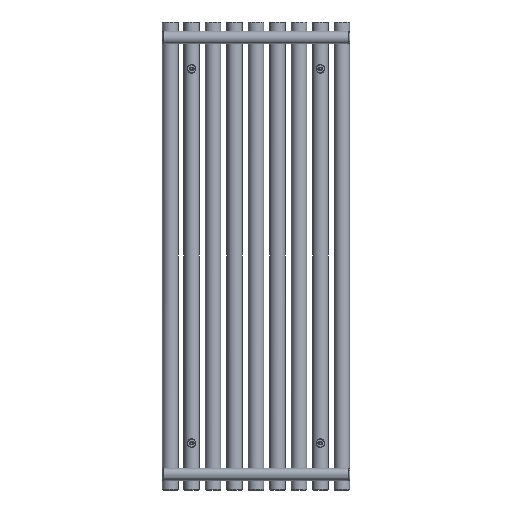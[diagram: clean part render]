
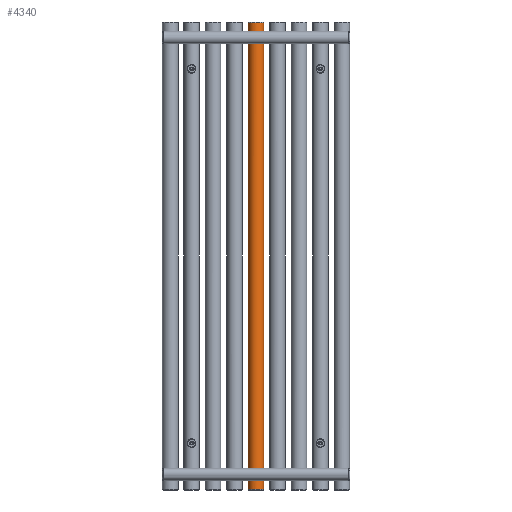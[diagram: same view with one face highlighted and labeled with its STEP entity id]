
A CAD part, front view. The second image highlights one B-rep face of the part: STEP entity #4340.
In plain terms, the highlighted cylindrical face has radius 20 mm (diameter 40 mm), a full revolution.
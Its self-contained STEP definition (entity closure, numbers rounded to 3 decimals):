
#270=FACE_BOUND('',#928,.T.);
#271=FACE_BOUND('',#929,.T.);
#272=FACE_BOUND('',#930,.T.);
#334=LINE('',#8154,#449);
#449=VECTOR('',#5409,20.);
#564=CYLINDRICAL_SURFACE('',#4674,20.);
#632=FACE_OUTER_BOUND('',#927,.T.);
#927=EDGE_LOOP('',(#3010,#3011,#3012,#3013,#3014));
#928=EDGE_LOOP('',(#3015));
#929=EDGE_LOOP('',(#3016));
#930=EDGE_LOOP('',(#3017));
#1271=B_SPLINE_CURVE_WITH_KNOTS('',3,(#8128,#8129,#8130,#8131,#8132,#8133,
#8134,#8135,#8136,#8137,#8138,#8139,#8140,#8141,#8142,#8143,#8144,#8145,
#8146,#8147,#8148),.UNSPECIFIED.,.T.,.F.,(4,1,1,1,1,1,1,1,1,1,1,1,1,1,1,
1,1,1,4),(-5.132,-4.765,-4.399,-4.154,
-3.91,-3.788,-3.666,-3.421,
-3.177,-2.933,-2.688,-2.199,
-1.955,-1.711,-1.466,-1.1,
-0.733,-0.367,0.),.UNSPECIFIED.);
#1272=B_SPLINE_CURVE_WITH_KNOTS('',3,(#8158,#8159,#8160,#8161,#8162,#8163,
#8164,#8165,#8166,#8167,#8168,#8169,#8170,#8171,#8172,#8173,#8174,#8175,
#8176,#8177),.UNSPECIFIED.,.T.,.F.,(4,1,1,1,1,1,1,1,1,1,1,1,1,1,1,1,1,4),
(-5.132,-4.765,-4.399,-4.154,
-3.91,-3.666,-3.421,-3.177,-2.933,
-2.444,-2.199,-1.955,-1.711,-1.466,
-1.1,-0.733,-0.367,0.),
 .UNSPECIFIED.);
#1273=B_SPLINE_CURVE_WITH_KNOTS('',3,(#8179,#8180,#8181,#8182,#8183,#8184,
#8185,#8186,#8187,#8188,#8189,#8190,#8191,#8192,#8193,#8194,#8195,#8196,
#8197,#8198),.UNSPECIFIED.,.T.,.F.,(4,1,1,1,1,1,1,1,1,1,1,1,1,1,1,1,1,4),
(-6.15,-5.711,-5.272,-4.686,
-4.393,-4.247,-4.1,-3.807,
-3.514,-3.222,-2.929,-2.636,
-2.05,-1.757,-1.318,-0.879,
-0.439,0.),.UNSPECIFIED.);
#1367=CIRCLE('',#4675,20.);
#1368=CIRCLE('',#4676,20.);
#1369=CIRCLE('',#4677,20.);
#1824=VERTEX_POINT('',#8126);
#1825=VERTEX_POINT('',#8150);
#1826=VERTEX_POINT('',#8151);
#1827=VERTEX_POINT('',#8153);
#1828=VERTEX_POINT('',#8157);
#1829=VERTEX_POINT('',#8178);
#2310=EDGE_CURVE('',#1824,#1824,#1271,.T.);
#2311=EDGE_CURVE('',#1825,#1826,#1367,.T.);
#2312=EDGE_CURVE('',#1825,#1827,#334,.T.);
#2313=EDGE_CURVE('',#1827,#1827,#1368,.T.);
#2314=EDGE_CURVE('',#1826,#1825,#1369,.T.);
#2315=EDGE_CURVE('',#1828,#1828,#1272,.T.);
#2316=EDGE_CURVE('',#1829,#1829,#1273,.T.);
#3010=ORIENTED_EDGE('',*,*,#2311,.F.);
#3011=ORIENTED_EDGE('',*,*,#2312,.T.);
#3012=ORIENTED_EDGE('',*,*,#2313,.F.);
#3013=ORIENTED_EDGE('',*,*,#2312,.F.);
#3014=ORIENTED_EDGE('',*,*,#2314,.F.);
#3015=ORIENTED_EDGE('',*,*,#2315,.F.);
#3016=ORIENTED_EDGE('',*,*,#2316,.F.);
#3017=ORIENTED_EDGE('',*,*,#2310,.F.);
#4340=ADVANCED_FACE('',(#632,#270,#271,#272),#564,.T.);
#4674=AXIS2_PLACEMENT_3D('',#8149,#5405,#5406);
#4675=AXIS2_PLACEMENT_3D('',#8152,#5407,#5408);
#4676=AXIS2_PLACEMENT_3D('',#8155,#5410,#5411);
#4677=AXIS2_PLACEMENT_3D('',#8156,#5412,#5413);
#5405=DIRECTION('center_axis',(0.,0.,1.));
#5406=DIRECTION('ref_axis',(-1.,0.,0.));
#5407=DIRECTION('center_axis',(0.,0.,1.));
#5408=DIRECTION('ref_axis',(-1.,0.,0.));
#5409=DIRECTION('',(0.,0.,-1.));
#5410=DIRECTION('center_axis',(0.,0.,-1.));
#5411=DIRECTION('ref_axis',(-1.,0.,0.));
#5412=DIRECTION('center_axis',(0.,0.,1.));
#5413=DIRECTION('ref_axis',(-1.,0.,0.));
#8126=CARTESIAN_POINT('',(-220.,-20.,50.1));
#8128=CARTESIAN_POINT('Ctrl Pts',(-220.,-20.,50.1));
#8129=CARTESIAN_POINT('Ctrl Pts',(-221.611,-20.,50.1));
#8130=CARTESIAN_POINT('Ctrl Pts',(-224.838,-19.598,49.587));
#8131=CARTESIAN_POINT('Ctrl Pts',(-228.411,-18.224,47.307));
#8132=CARTESIAN_POINT('Ctrl Pts',(-230.379,-17.114,44.115));
#8133=CARTESIAN_POINT('Ctrl Pts',(-230.993,-16.707,41.396));
#8134=CARTESIAN_POINT('Ctrl Pts',(-230.992,-16.708,39.163));
#8135=CARTESIAN_POINT('Ctrl Pts',(-230.666,-16.92,36.968));
#8136=CARTESIAN_POINT('Ctrl Pts',(-229.649,-17.552,34.429));
#8137=CARTESIAN_POINT('Ctrl Pts',(-227.534,-18.592,32.083));
#8138=CARTESIAN_POINT('Ctrl Pts',(-224.761,-19.504,30.58));
#8139=CARTESIAN_POINT('Ctrl Pts',(-220.581,-20.198,29.637));
#8140=CARTESIAN_POINT('Ctrl Pts',(-216.165,-19.824,30.09));
#8141=CARTESIAN_POINT('Ctrl Pts',(-212.466,-18.588,32.082));
#8142=CARTESIAN_POINT('Ctrl Pts',(-210.351,-17.556,34.43));
#8143=CARTESIAN_POINT('Ctrl Pts',(-208.927,-16.66,37.98));
#8144=CARTESIAN_POINT('Ctrl Pts',(-208.922,-16.66,42.599));
#8145=CARTESIAN_POINT('Ctrl Pts',(-211.137,-18.052,47.027));
#8146=CARTESIAN_POINT('Ctrl Pts',(-215.165,-19.6,49.585));
#8147=CARTESIAN_POINT('Ctrl Pts',(-218.389,-20.,50.1));
#8148=CARTESIAN_POINT('Ctrl Pts',(-220.,-20.,50.1));
#8149=CARTESIAN_POINT('Origin',(-220.,0.,0.));
#8150=CARTESIAN_POINT('',(-200.,0.,1198.));
#8151=CARTESIAN_POINT('',(-240.,0.,1198.));
#8152=CARTESIAN_POINT('Origin',(-220.,0.,1198.));
#8153=CARTESIAN_POINT('',(-200.,0.,2.));
#8154=CARTESIAN_POINT('',(-200.,0.,0.));
#8155=CARTESIAN_POINT('Origin',(-220.,0.,2.));
#8156=CARTESIAN_POINT('Origin',(-220.,0.,1198.));
#8157=CARTESIAN_POINT('',(-220.,-20.,1170.1));
#8158=CARTESIAN_POINT('Ctrl Pts',(-220.,-20.,1170.1));
#8159=CARTESIAN_POINT('Ctrl Pts',(-221.611,-20.,1170.1));
#8160=CARTESIAN_POINT('Ctrl Pts',(-224.838,-19.598,1169.588));
#8161=CARTESIAN_POINT('Ctrl Pts',(-228.412,-18.225,1167.308));
#8162=CARTESIAN_POINT('Ctrl Pts',(-230.38,-17.114,1164.116));
#8163=CARTESIAN_POINT('Ctrl Pts',(-231.115,-16.626,1160.853));
#8164=CARTESIAN_POINT('Ctrl Pts',(-230.87,-16.793,1157.475));
#8165=CARTESIAN_POINT('Ctrl Pts',(-229.65,-17.555,1154.43));
#8166=CARTESIAN_POINT('Ctrl Pts',(-227.535,-18.589,1152.082));
#8167=CARTESIAN_POINT('Ctrl Pts',(-223.836,-19.821,1150.088));
#8168=CARTESIAN_POINT('Ctrl Pts',(-219.419,-20.203,1149.641));
#8169=CARTESIAN_POINT('Ctrl Pts',(-215.24,-19.504,1150.58));
#8170=CARTESIAN_POINT('Ctrl Pts',(-212.467,-18.593,1152.084));
#8171=CARTESIAN_POINT('Ctrl Pts',(-210.351,-17.554,1154.428));
#8172=CARTESIAN_POINT('Ctrl Pts',(-208.928,-16.664,1157.98));
#8173=CARTESIAN_POINT('Ctrl Pts',(-208.923,-16.659,1162.598));
#8174=CARTESIAN_POINT('Ctrl Pts',(-211.135,-18.048,1167.029));
#8175=CARTESIAN_POINT('Ctrl Pts',(-215.165,-19.6,1169.585));
#8176=CARTESIAN_POINT('Ctrl Pts',(-218.389,-20.,1170.1));
#8177=CARTESIAN_POINT('Ctrl Pts',(-220.,-20.,1170.1));
#8178=CARTESIAN_POINT('',(-230.476,17.037,1000.));
#8179=CARTESIAN_POINT('Ctrl Pts',(-230.476,17.037,1000.));
#8180=CARTESIAN_POINT('Ctrl Pts',(-230.476,17.037,1001.678));
#8181=CARTESIAN_POINT('Ctrl Pts',(-229.71,17.527,1005.001));
#8182=CARTESIAN_POINT('Ctrl Pts',(-226.469,19.119,1009.277));
#8183=CARTESIAN_POINT('Ctrl Pts',(-221.909,20.126,1011.233));
#8184=CARTESIAN_POINT('Ctrl Pts',(-218.117,19.959,1010.921));
#8185=CARTESIAN_POINT('Ctrl Pts',(-216.106,19.637,1010.256));
#8186=CARTESIAN_POINT('Ctrl Pts',(-214.226,19.19,1009.292));
#8187=CARTESIAN_POINT('Ctrl Pts',(-212.207,18.468,1007.586));
#8188=CARTESIAN_POINT('Ctrl Pts',(-210.447,17.595,1004.897));
#8189=CARTESIAN_POINT('Ctrl Pts',(-209.484,17.016,1001.706));
#8190=CARTESIAN_POINT('Ctrl Pts',(-209.483,17.013,998.293));
#8191=CARTESIAN_POINT('Ctrl Pts',(-210.767,17.794,994.039));
#8192=CARTESIAN_POINT('Ctrl Pts',(-213.646,19.133,990.785));
#8193=CARTESIAN_POINT('Ctrl Pts',(-218.07,20.041,988.91));
#8194=CARTESIAN_POINT('Ctrl Pts',(-222.479,20.043,988.912));
#8195=CARTESIAN_POINT('Ctrl Pts',(-226.787,18.951,991.157));
#8196=CARTESIAN_POINT('Ctrl Pts',(-229.716,17.533,994.995));
#8197=CARTESIAN_POINT('Ctrl Pts',(-230.476,17.037,998.322));
#8198=CARTESIAN_POINT('Ctrl Pts',(-230.476,17.037,1000.));
